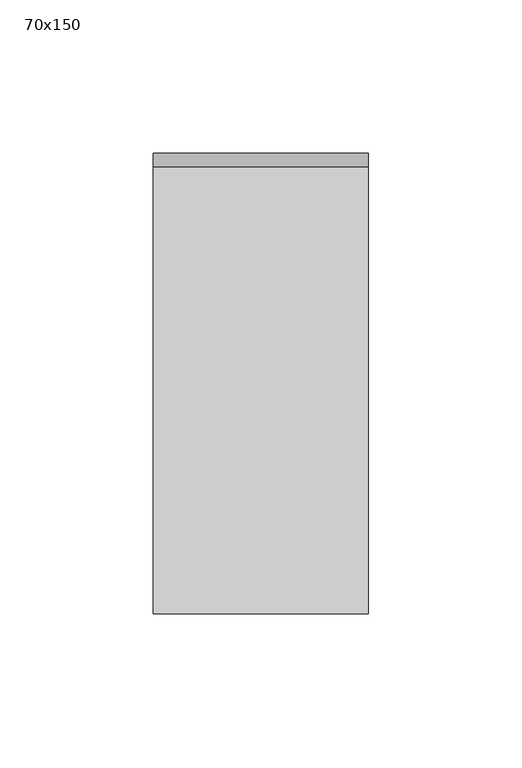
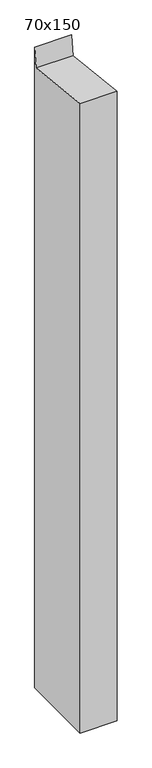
"""IFC4 building model written with IfcOpenShell, lengths in millimetres: member geometry, 長方形のマリオン : 70x150."""

from ifc_helpers import new_model, si_unit, frame, origin, place, context, project, spatial, polyline, outline, extrude, source, transform, mapped, element, save


def member_70x150_039baa39(model_context):
    return source(origin(), model_context, "Body", "SweptSolid", [
        extrude(outline(polyline([(-75.0, 8.1118336), (70.6798324, -8.0622955), (75.0, 30.8493077), (75.0, -1257.3998205), (-75.0, -1257.3998205), (-75.0, 8.1118336)])), frame((-70.0, 0.0, 0.0), z_axis=(1.0, 0.0, 0.0), x_axis=(0.0, 1.0, 0.0)), (0.0, 0.0, 1.0), 70.0),
    ])


if __name__ == "__main__":
    model = new_model("IFC4")
    model_context = context("Model", 3, world=origin())
    ifc_project = project(units=[si_unit("LENGTHUNIT", "METRE", prefix="MILLI")], contexts=[model_context])
    site = spatial("IfcSite", under=ifc_project)
    building = spatial("IfcBuilding", under=site)
    placement = place(None, origin())
    member_70x150_shape = member_70x150_039baa39(model_context)
    element("IfcMember", 1, ObjectType="長方形のマリオン : 70x150", at=placement, inside=building, context=model_context, shape_type="MappedRepresentation", body=[
        mapped(member_70x150_shape, transform((0.0, 0.0, 0.0), x_axis=(1.0, 0.0, 0.0), y_axis=(0.0, 1.0, 0.0), z_axis=(0.0, 0.0, 1.0))),
    ])
    save(model, "model.ifc")
